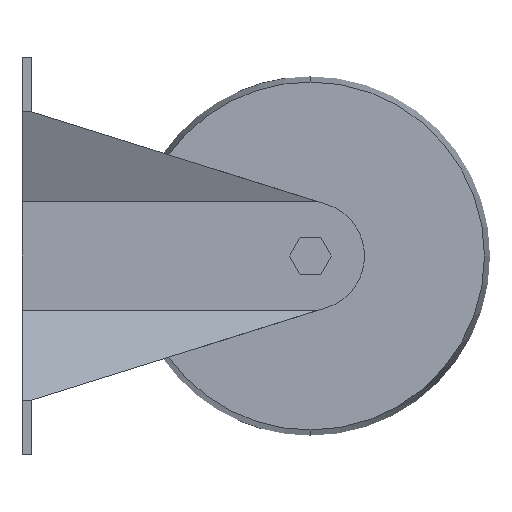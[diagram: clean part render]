
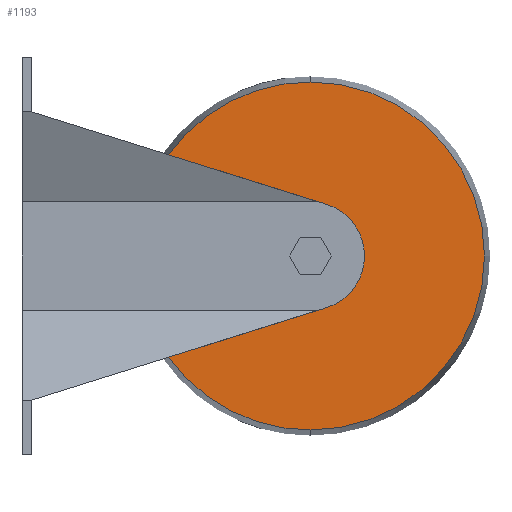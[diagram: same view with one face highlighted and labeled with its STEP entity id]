
A CAD part, left-side view. The second image highlights one B-rep face of the part: STEP entity #1193.
In plain terms, the highlighted planar face has unit normal (-1, 0, 0).
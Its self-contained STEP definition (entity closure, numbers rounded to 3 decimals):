
#18 = CARTESIAN_POINT ( 'NONE',  ( -16., -80., 48.273 ) ) ;
#51 = CARTESIAN_POINT ( 'NONE',  ( -16., -2.6, -40. ) ) ;
#77 = AXIS2_PLACEMENT_3D ( 'NONE', #1516, #434, #973 ) ;
#92 = CARTESIAN_POINT ( 'NONE',  ( -16., -80., 0. ) ) ;
#137 = EDGE_LOOP ( 'NONE', ( #258, #156, #193, #361, #933, #720 ) ) ;
#156 = ORIENTED_EDGE ( 'NONE', *, *, #335, .T. ) ;
#162 = EDGE_CURVE ( 'NONE', #1119, #1442, #824, .T. ) ;
#193 = ORIENTED_EDGE ( 'NONE', *, *, #1011, .T. ) ;
#197 = CARTESIAN_POINT ( 'NONE',  ( -16., -84.49, 14.312 ) ) ;
#200 = DIRECTION ( 'NONE',  ( 1., 0., 0. ) ) ;
#223 = PLANE ( 'NONE',  #420 ) ;
#258 = ORIENTED_EDGE ( 'NONE', *, *, #162, .T. ) ;
#322 = CIRCLE ( 'NONE', #574, 48.273 ) ;
#335 = EDGE_CURVE ( 'NONE', #1442, #639, #322, .T. ) ;
#361 = ORIENTED_EDGE ( 'NONE', *, *, #440, .T. ) ;
#420 = AXIS2_PLACEMENT_3D ( 'NONE', #1327, #200, #480 ) ;
#432 = CARTESIAN_POINT ( 'NONE',  ( -16., -80., -48.273 ) ) ;
#434 = DIRECTION ( 'NONE',  ( -1., 0., 0. ) ) ;
#440 = EDGE_CURVE ( 'NONE', #1181, #1165, #862, .T. ) ;
#460 = DIRECTION ( 'NONE',  ( -1., 0., 0. ) ) ;
#468 = CIRCLE ( 'NONE', #77, 48.273 ) ;
#480 = DIRECTION ( 'NONE',  ( 0., 0., -1. ) ) ;
#501 = EDGE_CURVE ( 'NONE', #970, #1119, #1392, .T. ) ;
#503 = FACE_OUTER_BOUND ( 'NONE', #137, .T. ) ;
#574 = AXIS2_PLACEMENT_3D ( 'NONE', #1168, #460, #1138 ) ;
#617 = DIRECTION ( 'NONE',  ( 1., 0., 0. ) ) ;
#639 = VERTEX_POINT ( 'NONE', #432 ) ;
#720 = ORIENTED_EDGE ( 'NONE', *, *, #501, .T. ) ;
#724 = DIRECTION ( 'NONE',  ( 0., 0., -1. ) ) ;
#730 = CARTESIAN_POINT ( 'NONE',  ( -16., -84.49, -14.312 ) ) ;
#732 = EDGE_CURVE ( 'NONE', #1165, #970, #969, .T. ) ;
#752 = DIRECTION ( 'NONE',  ( 0., 0.954, -0.299 ) ) ;
#824 = LINE ( 'NONE', #51, #1267 ) ;
#850 = CARTESIAN_POINT ( 'NONE',  ( -16., -84.49, 14.312 ) ) ;
#862 = CIRCLE ( 'NONE', #1036, 48.273 ) ;
#933 = ORIENTED_EDGE ( 'NONE', *, *, #732, .T. ) ;
#956 = CARTESIAN_POINT ( 'NONE',  ( -16., -40.709, -28.046 ) ) ;
#969 = LINE ( 'NONE', #850, #1428 ) ;
#970 = VERTEX_POINT ( 'NONE', #197 ) ;
#973 = DIRECTION ( 'NONE',  ( 0., 0., 1. ) ) ;
#1011 = EDGE_CURVE ( 'NONE', #639, #1181, #468, .T. ) ;
#1036 = AXIS2_PLACEMENT_3D ( 'NONE', #1083, #1262, #1394 ) ;
#1083 = CARTESIAN_POINT ( 'NONE',  ( -16., -80., 0. ) ) ;
#1119 = VERTEX_POINT ( 'NONE', #730 ) ;
#1138 = DIRECTION ( 'NONE',  ( 0., 0., 1. ) ) ;
#1165 = VERTEX_POINT ( 'NONE', #1529 ) ;
#1168 = CARTESIAN_POINT ( 'NONE',  ( -16., -80., 0. ) ) ;
#1181 = VERTEX_POINT ( 'NONE', #18 ) ;
#1193 = ADVANCED_FACE ( 'NONE', ( #503 ), #223, .F. ) ;
#1262 = DIRECTION ( 'NONE',  ( -1., 0., 0. ) ) ;
#1267 = VECTOR ( 'NONE', #752, 1000. ) ;
#1305 = AXIS2_PLACEMENT_3D ( 'NONE', #92, #617, #724 ) ;
#1327 = CARTESIAN_POINT ( 'NONE',  ( -16., -80., 0. ) ) ;
#1392 = CIRCLE ( 'NONE', #1305, 15. ) ;
#1394 = DIRECTION ( 'NONE',  ( 0., 0., 1. ) ) ;
#1428 = VECTOR ( 'NONE', #1469, 1000. ) ;
#1442 = VERTEX_POINT ( 'NONE', #956 ) ;
#1469 = DIRECTION ( 'NONE',  ( 0., -0.954, -0.299 ) ) ;
#1516 = CARTESIAN_POINT ( 'NONE',  ( -16., -80., 0. ) ) ;
#1529 = CARTESIAN_POINT ( 'NONE',  ( -16., -40.709, 28.046 ) ) ;
